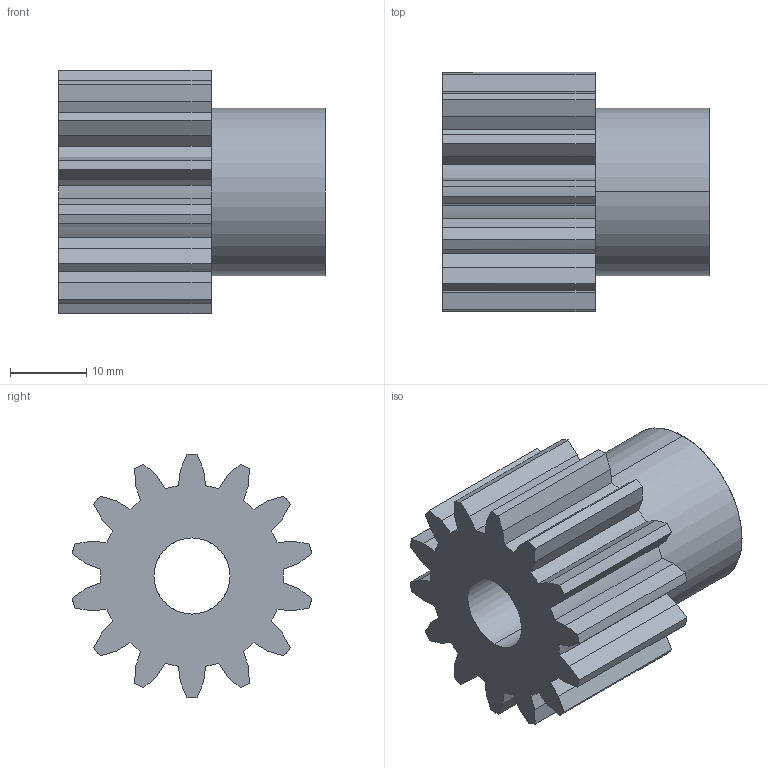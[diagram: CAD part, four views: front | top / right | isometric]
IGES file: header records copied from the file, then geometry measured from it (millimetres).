
Start section: SolidWorks IGES file using analytic representation for surfaces
Global section: file name: C:\Users\Honza\Desktop\Matis (Hotove)\Èelní ozubená kola\PM\MODUL 2\PM 28014.IGS; native system: SolidWorks 2010; preprocessor: SolidWorks 2010; author: Honza; date: 130925.102147; units: millimetre
Bounding box: 35 x 31.47 x 32 mm (x, y, z)
Surface area: 6482.8 mm2 (no closed solid volume)
Topology: 0 solids, 0 shells, 91 faces, 650 edges, 650 vertices
Faces by surface type: bspline 59, revolution 32
